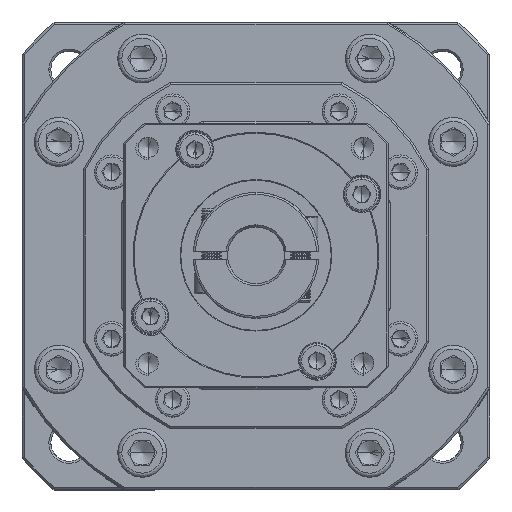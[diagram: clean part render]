
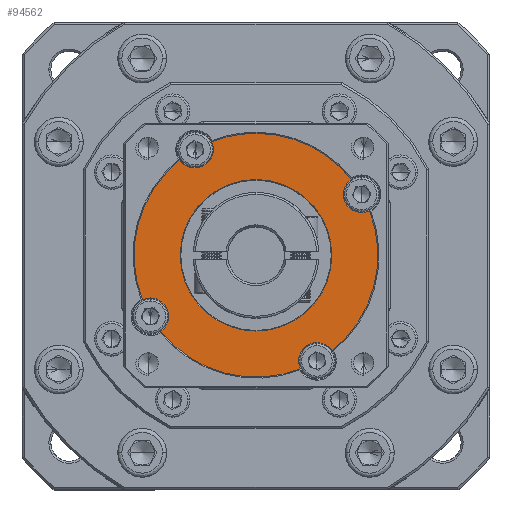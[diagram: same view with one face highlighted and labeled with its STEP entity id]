
A CAD part, top view. The second image highlights one B-rep face of the part: STEP entity #94562.
In plain terms, the highlighted planar face has unit normal (0, 0, 1).
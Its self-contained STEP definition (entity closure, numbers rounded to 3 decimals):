
#1852 = DIRECTION ( 'NONE',  ( 0., 0., 1. ) ) ;
#5538 = DIRECTION ( 'NONE',  ( 0., 0., 1. ) ) ;
#8200 = DIRECTION ( 'NONE',  ( 0., 1., 0. ) ) ;
#9958 = CIRCLE ( 'NONE', #69578, 30. ) ;
#10309 = AXIS2_PLACEMENT_3D ( 'NONE', #53103, #75485, #126599 ) ;
#11301 = VERTEX_POINT ( 'NONE', #134078 ) ;
#11817 = CARTESIAN_POINT ( 'NONE',  ( 66.066, 92.904, -14.038 ) ) ;
#12689 = VERTEX_POINT ( 'NONE', #96812 ) ;
#12975 = DIRECTION ( 'NONE',  ( 0., 1., 0. ) ) ;
#13103 = CARTESIAN_POINT ( 'NONE',  ( 93.998, 103.85, -14.038 ) ) ;
#13514 = EDGE_CURVE ( 'NONE', #59030, #11301, #42747, .T. ) ;
#14558 = ORIENTED_EDGE ( 'NONE', *, *, #40037, .T. ) ;
#14919 = VERTEX_POINT ( 'NONE', #13103 ) ;
#15734 = DIRECTION ( 'NONE',  ( 0., 1., 0. ) ) ;
#17023 = CIRCLE ( 'NONE', #33290, 4.5 ) ;
#17622 = DIRECTION ( 'NONE',  ( 0., 1., 0. ) ) ;
#18708 = ORIENTED_EDGE ( 'NONE', *, *, #92890, .F. ) ;
#19542 = AXIS2_PLACEMENT_3D ( 'NONE', #63065, #1852, #104925 ) ;
#19700 = DIRECTION ( 'NONE',  ( 0., 0., 1. ) ) ;
#20151 = AXIS2_PLACEMENT_3D ( 'NONE', #65984, #56596, #12975 ) ;
#20752 = VERTEX_POINT ( 'NONE', #111327 ) ;
#22189 = ORIENTED_EDGE ( 'NONE', *, *, #120210, .T. ) ;
#22441 = CARTESIAN_POINT ( 'NONE',  ( 92.047, 107.904, -14.038 ) ) ;
#25281 = CIRCLE ( 'NONE', #119520, 4.5 ) ;
#29800 = CIRCLE ( 'NONE', #20151, 30. ) ;
#29843 = CARTESIAN_POINT ( 'NONE',  ( 77.011, 64.972, -14.038 ) ) ;
#30951 = ORIENTED_EDGE ( 'NONE', *, *, #114400, .T. ) ;
#31925 = EDGE_LOOP ( 'NONE', ( #60277, #89565, #106633, #39147, #14558, #43569, #88823, #100044, #30951, #44901, #131943, #22189, #18708 ) ) ;
#32069 = CIRCLE ( 'NONE', #63615, 4.5 ) ;
#32084 = AXIS2_PLACEMENT_3D ( 'NONE', #124972, #104048, #17622 ) ;
#32535 = AXIS2_PLACEMENT_3D ( 'NONE', #39724, #48137, #8200 ) ;
#33133 = DIRECTION ( 'NONE',  ( 0., 1., 0. ) ) ;
#33290 = AXIS2_PLACEMENT_3D ( 'NONE', #37019, #111788, #132660 ) ;
#34052 = DIRECTION ( 'NONE',  ( 0., 0., 1. ) ) ;
#34253 = CARTESIAN_POINT ( 'NONE',  ( 81.066, 71.424, -14.038 ) ) ;
#36976 = CARTESIAN_POINT ( 'NONE',  ( 66.066, 92.904, -14.038 ) ) ;
#37019 = CARTESIAN_POINT ( 'NONE',  ( 51.066, 118.885, -14.038 ) ) ;
#37431 = CARTESIAN_POINT ( 'NONE',  ( 81.066, 66.924, -14.038 ) ) ;
#38034 = CIRCLE ( 'NONE', #72961, 18.644 ) ;
#38162 = CARTESIAN_POINT ( 'NONE',  ( 55.121, 120.837, -14.038 ) ) ;
#38323 = DIRECTION ( 'NONE',  ( 0., 0., 1. ) ) ;
#39147 = ORIENTED_EDGE ( 'NONE', *, *, #57033, .F. ) ;
#39724 = CARTESIAN_POINT ( 'NONE',  ( 66.066, 92.904, -14.038 ) ) ;
#40037 = EDGE_CURVE ( 'NONE', #20752, #65934, #9958, .T. ) ;
#40173 = DIRECTION ( 'NONE',  ( 0., 0., 1. ) ) ;
#41545 = ORIENTED_EDGE ( 'NONE', *, *, #92263, .T. ) ;
#42747 = CIRCLE ( 'NONE', #32535, 18.644 ) ;
#43505 = EDGE_LOOP ( 'NONE', ( #41545, #79778 ) ) ;
#43569 = ORIENTED_EDGE ( 'NONE', *, *, #133837, .T. ) ;
#44901 = ORIENTED_EDGE ( 'NONE', *, *, #116293, .F. ) ;
#48108 = DIRECTION ( 'NONE',  ( 0., 0., 1. ) ) ;
#48137 = DIRECTION ( 'NONE',  ( 0., 0., -1. ) ) ;
#48548 = CIRCLE ( 'NONE', #89447, 4.5 ) ;
#49324 = CARTESIAN_POINT ( 'NONE',  ( 92.047, 107.904, -14.038 ) ) ;
#50075 = AXIS2_PLACEMENT_3D ( 'NONE', #11817, #73676, #53138 ) ;
#51559 = EDGE_CURVE ( 'NONE', #115638, #14919, #129524, .T. ) ;
#52199 = DIRECTION ( 'NONE',  ( 0., 1., 0. ) ) ;
#53103 = CARTESIAN_POINT ( 'NONE',  ( 66.066, 92.904, -14.038 ) ) ;
#53138 = DIRECTION ( 'NONE',  ( 0., 1., 0. ) ) ;
#55688 = CIRCLE ( 'NONE', #32084, 4.5 ) ;
#55741 = AXIS2_PLACEMENT_3D ( 'NONE', #36976, #48108, #111753 ) ;
#56596 = DIRECTION ( 'NONE',  ( 0., 0., 1. ) ) ;
#57033 = EDGE_CURVE ( 'NONE', #20752, #112611, #48548, .T. ) ;
#59030 = VERTEX_POINT ( 'NONE', #81744 ) ;
#59954 = DIRECTION ( 'NONE',  ( 0., 1., 0. ) ) ;
#60277 = ORIENTED_EDGE ( 'NONE', *, *, #82655, .F. ) ;
#63065 = CARTESIAN_POINT ( 'NONE',  ( 40.085, 77.904, -14.038 ) ) ;
#63615 = AXIS2_PLACEMENT_3D ( 'NONE', #110474, #5538, #98823 ) ;
#65934 = VERTEX_POINT ( 'NONE', #86915 ) ;
#65984 = CARTESIAN_POINT ( 'NONE',  ( 66.066, 92.904, -14.038 ) ) ;
#66042 = DIRECTION ( 'NONE',  ( 0., 1., 0. ) ) ;
#69086 = CARTESIAN_POINT ( 'NONE',  ( 40.085, 82.404, -14.038 ) ) ;
#69459 = DIRECTION ( 'NONE',  ( 0., 1., 0. ) ) ;
#69578 = AXIS2_PLACEMENT_3D ( 'NONE', #132791, #121236, #15734 ) ;
#72714 = PLANE ( 'NONE',  #78681 ) ;
#72961 = AXIS2_PLACEMENT_3D ( 'NONE', #119923, #107890, #66042 ) ;
#73676 = DIRECTION ( 'NONE',  ( 0., 0., 1. ) ) ;
#75485 = DIRECTION ( 'NONE',  ( 0., 0., 1. ) ) ;
#78681 = AXIS2_PLACEMENT_3D ( 'NONE', #136305, #19700, #52199 ) ;
#78805 = CIRCLE ( 'NONE', #19542, 4.5 ) ;
#79748 = EDGE_CURVE ( 'NONE', #132968, #118958, #55688, .T. ) ;
#79778 = ORIENTED_EDGE ( 'NONE', *, *, #13514, .T. ) ;
#81744 = CARTESIAN_POINT ( 'NONE',  ( 66.066, 74.26, -14.038 ) ) ;
#81874 = FACE_OUTER_BOUND ( 'NONE', #31925, .T. ) ;
#82069 = CARTESIAN_POINT ( 'NONE',  ( 40.085, 77.904, -14.038 ) ) ;
#82655 = EDGE_CURVE ( 'NONE', #115638, #119765, #32069, .T. ) ;
#86915 = CARTESIAN_POINT ( 'NONE',  ( 66.066, 122.904, -14.038 ) ) ;
#88823 = ORIENTED_EDGE ( 'NONE', *, *, #79748, .F. ) ;
#89447 = AXIS2_PLACEMENT_3D ( 'NONE', #49324, #123657, #59954 ) ;
#89565 = ORIENTED_EDGE ( 'NONE', *, *, #51559, .T. ) ;
#91368 = CIRCLE ( 'NONE', #98224, 4.5 ) ;
#91671 = VERTEX_POINT ( 'NONE', #69086 ) ;
#92263 = EDGE_CURVE ( 'NONE', #11301, #59030, #38034, .T. ) ;
#92570 = CARTESIAN_POINT ( 'NONE',  ( 84.784, 69.46, -14.038 ) ) ;
#92890 = EDGE_CURVE ( 'NONE', #119765, #117256, #132537, .T. ) ;
#93628 = CARTESIAN_POINT ( 'NONE',  ( 42.621, 74.187, -14.038 ) ) ;
#94512 = EDGE_CURVE ( 'NONE', #127410, #91671, #25281, .T. ) ;
#94562 = ADVANCED_FACE ( 'NONE', ( #110062, #81874 ), #72714, .T. ) ;
#95853 = CIRCLE ( 'NONE', #55741, 30. ) ;
#96640 = CARTESIAN_POINT ( 'NONE',  ( 51.066, 114.385, -14.038 ) ) ;
#96812 = CARTESIAN_POINT ( 'NONE',  ( 38.134, 81.959, -14.038 ) ) ;
#97910 = AXIS2_PLACEMENT_3D ( 'NONE', #37431, #38323, #69459 ) ;
#98224 = AXIS2_PLACEMENT_3D ( 'NONE', #22441, #34052, #33133 ) ;
#98823 = DIRECTION ( 'NONE',  ( 0., 1., 0. ) ) ;
#100044 = ORIENTED_EDGE ( 'NONE', *, *, #127189, .F. ) ;
#100527 = CARTESIAN_POINT ( 'NONE',  ( 47.349, 116.349, -14.038 ) ) ;
#102419 = DIRECTION ( 'NONE',  ( 0., 1., 0. ) ) ;
#104048 = DIRECTION ( 'NONE',  ( 0., 0., 1. ) ) ;
#104307 = CARTESIAN_POINT ( 'NONE',  ( 92.047, 103.404, -14.038 ) ) ;
#104925 = DIRECTION ( 'NONE',  ( 0., 1., 0. ) ) ;
#106633 = ORIENTED_EDGE ( 'NONE', *, *, #113442, .F. ) ;
#107890 = DIRECTION ( 'NONE',  ( 0., 0., -1. ) ) ;
#107955 = CIRCLE ( 'NONE', #10309, 30. ) ;
#110062 = FACE_BOUND ( 'NONE', #43505, .T. ) ;
#110191 = VERTEX_POINT ( 'NONE', #100527 ) ;
#110474 = CARTESIAN_POINT ( 'NONE',  ( 81.066, 66.924, -14.038 ) ) ;
#111327 = CARTESIAN_POINT ( 'NONE',  ( 89.511, 111.622, -14.038 ) ) ;
#111753 = DIRECTION ( 'NONE',  ( 0., 1., 0. ) ) ;
#111788 = DIRECTION ( 'NONE',  ( 0., 0., 1. ) ) ;
#112611 = VERTEX_POINT ( 'NONE', #104307 ) ;
#113442 = EDGE_CURVE ( 'NONE', #112611, #14919, #91368, .T. ) ;
#114400 = EDGE_CURVE ( 'NONE', #110191, #12689, #95853, .T. ) ;
#115638 = VERTEX_POINT ( 'NONE', #92570 ) ;
#116293 = EDGE_CURVE ( 'NONE', #91671, #12689, #78805, .T. ) ;
#117256 = VERTEX_POINT ( 'NONE', #29843 ) ;
#118958 = VERTEX_POINT ( 'NONE', #38162 ) ;
#119520 = AXIS2_PLACEMENT_3D ( 'NONE', #82069, #40173, #102419 ) ;
#119765 = VERTEX_POINT ( 'NONE', #34253 ) ;
#119923 = CARTESIAN_POINT ( 'NONE',  ( 66.066, 92.904, -14.038 ) ) ;
#120210 = EDGE_CURVE ( 'NONE', #127410, #117256, #29800, .T. ) ;
#121236 = DIRECTION ( 'NONE',  ( 0., 0., 1. ) ) ;
#123657 = DIRECTION ( 'NONE',  ( 0., 0., 1. ) ) ;
#124972 = CARTESIAN_POINT ( 'NONE',  ( 51.066, 118.885, -14.038 ) ) ;
#126599 = DIRECTION ( 'NONE',  ( 0., 1., 0. ) ) ;
#127189 = EDGE_CURVE ( 'NONE', #110191, #132968, #17023, .T. ) ;
#127410 = VERTEX_POINT ( 'NONE', #93628 ) ;
#129524 = CIRCLE ( 'NONE', #50075, 30. ) ;
#131943 = ORIENTED_EDGE ( 'NONE', *, *, #94512, .F. ) ;
#132537 = CIRCLE ( 'NONE', #97910, 4.5 ) ;
#132660 = DIRECTION ( 'NONE',  ( 0., 1., 0. ) ) ;
#132791 = CARTESIAN_POINT ( 'NONE',  ( 66.066, 92.904, -14.038 ) ) ;
#132968 = VERTEX_POINT ( 'NONE', #96640 ) ;
#133837 = EDGE_CURVE ( 'NONE', #65934, #118958, #107955, .T. ) ;
#134078 = CARTESIAN_POINT ( 'NONE',  ( 66.066, 111.549, -14.038 ) ) ;
#136305 = CARTESIAN_POINT ( 'NONE',  ( 66.066, 92.904, -14.038 ) ) ;
